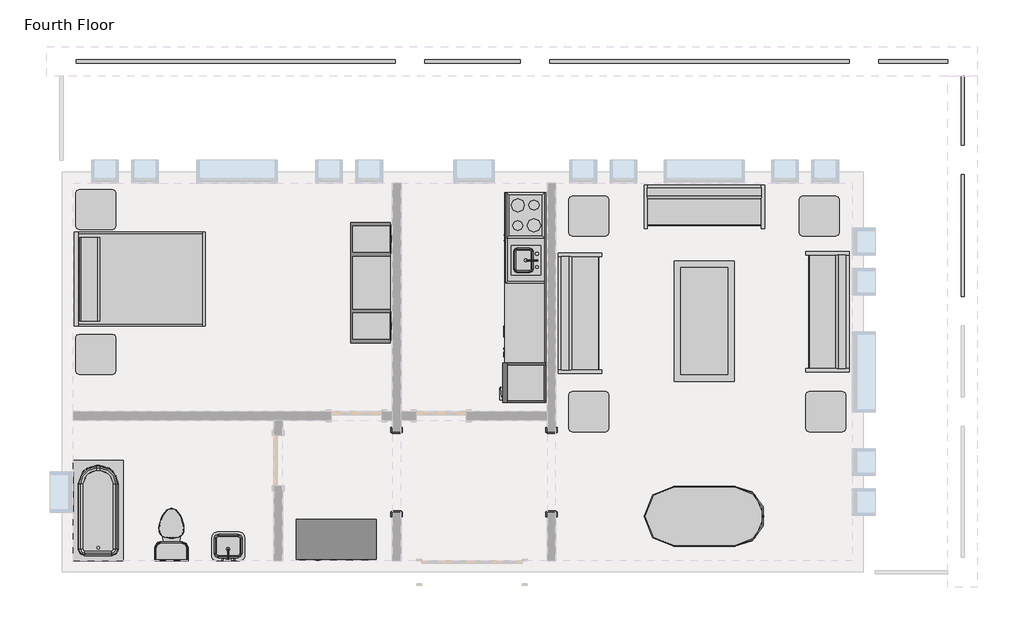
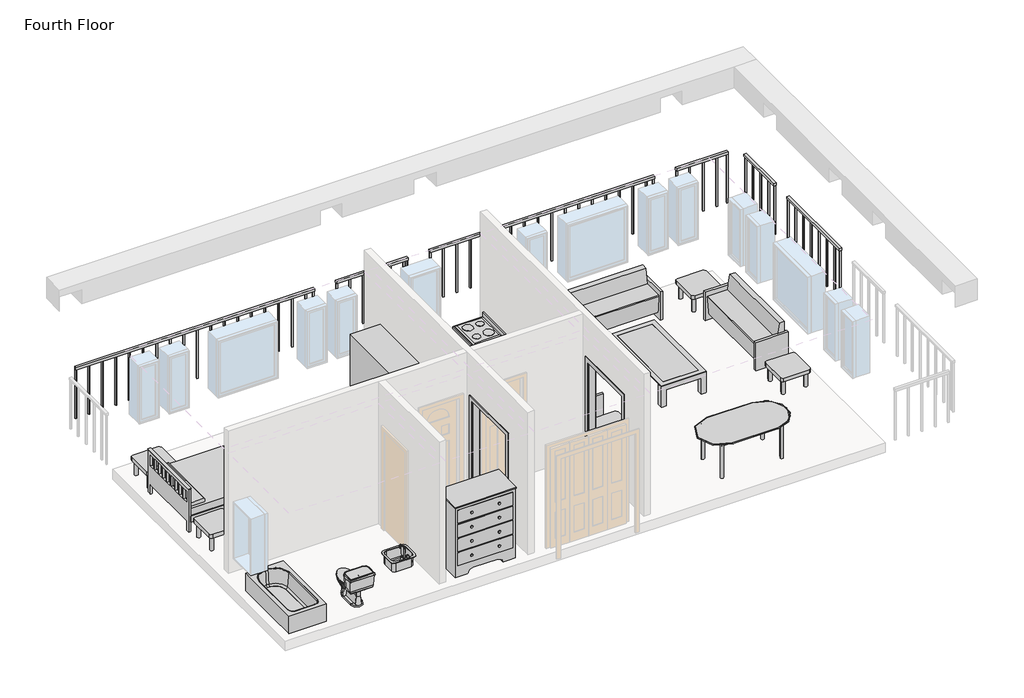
# One storey, part 2 of 2: 15 furniture elements, 6 proxies, 6 railings, 4 flow terminals.
"""IFC4 building model written with IfcOpenShell, lengths in millimetres."""

from ifc_helpers import new_model, si_unit, frame, origin, place, context, project, spatial, polyline, outline, extrude, transform, mapped, element, save
from components import m_cook_top_4_unit2_0615_x_500mm_249f3515, m_dishwasher_610_x_610_x_875mm_54ecfc4c, m_kitchenette_medium_1372mm_e05c6bec, m_passage_opening_cased_1220_x_2134mm_87a8d9c2, m_refrigerator_600_x_660mm_a466bf94, m_sink_kitchen_island_450_x_450mm_f969cf2d, m_sink_vanity_square_500_x_440mm_1e229b74, m_toilet_domestic_3d_m_toilet_domestic_3d_5cb52bd4, m_toilet_domestic_3d_m_toilet_domestic_3d_183bbd19, m_tub_rectangular_3d_m_tub_rectangular_3d_3a981ad5, m_bed_shaker_1422_x_1981mm_double_096e7f55, m_counter_top_w_sink_hole_600mm_depth_1fb56bb9, m_dresser_1220_x_1525_x_0610mm_18e1f140, m_entertainment_center_1830_x_1830_x_0610mm_f77a9b93, m_sofa_1830mm_58d08fc1, m_table_coffee_0915_x_1830_x_0457mm_134cd960, m_table_dining_oval_0915_x_1830mm_a7cfbe21, m_table_end_cb6ea12e

model = new_model("IFC4")

# Units and contexts
model_context = context("Model", 3, world=origin())
ifc_project = project(units=[si_unit("LENGTHUNIT", "METRE", prefix="MILLI")], contexts=[model_context])

# Site, building, storey
site = spatial("IfcSite", under=ifc_project)
building = spatial("IfcBuilding", under=site)
storey = spatial("IfcBuildingStorey", under=building, Name="Fourth Floor", Elevation=9144.0)

# Proxies
placement = place(None, origin())
m_cook_top_4_unit2_0615_x_500mm_shape = m_cook_top_4_unit2_0615_x_500mm_249f3515(model_context)
element("IfcBuildingElementProxy", 1, Name="M_Cook Top-4 Unit2 : 0615 x 500mm", ObjectType="M_Cook Top-4 Unit2 : 0615 x 500mm", at=placement, inside=storey, context=model_context, shape_type="MappedRepresentation", body=[
    mapped(m_cook_top_4_unit2_0615_x_500mm_shape, transform((-8054.9916203, 1914.054661, 9144.0), x_axis=(0.0, -1.0, 0.0), y_axis=(1.0, 0.0, 0.0), z_axis=(0.0, 0.0, 1.0))),
])
m_dishwasher_610_x_610_x_875mm_shape = m_dishwasher_610_x_610_x_875mm_54ecfc4c(model_context)
element("IfcBuildingElementProxy", 2, Name="M_Dishwasher : 610 x 610 x 875mm", ObjectType="M_Dishwasher : 610 x 610 x 875mm", at=placement, inside=storey, context=model_context, shape_type="MappedRepresentation", body=[
    mapped(m_dishwasher_610_x_610_x_875mm_shape, transform((-8321.6411851, 353.5721295, 9144.0), x_axis=(0.0, -1.0, 0.0), y_axis=(1.0, 0.0, 0.0), z_axis=(0.0, 0.0, 1.0))),
])
m_kitchenette_medium_1372mm_shape = m_kitchenette_medium_1372mm_e05c6bec(model_context)
element("IfcBuildingElementProxy", 3, Name="M_Kitchenette - Medium : 1372mm", ObjectType="M_Kitchenette - Medium : 1372mm", at=placement, inside=storey, context=model_context, shape_type="MappedRepresentation", body=[
    mapped(m_kitchenette_medium_1372mm_shape, transform((-7749.9916203, 1589.7923659, 9144.0), x_axis=(0.0, -1.0, 0.0), y_axis=(1.0, 0.0, 0.0), z_axis=(0.0, 0.0, 1.0))),
])
m_passage_opening_cased_1220_x_2134mm_shape = m_passage_opening_cased_1220_x_2134mm_87a8d9c2(model_context)
element("IfcBuildingElementProxy", 4, Name="M_Passage Opening-Cased : 1220 x 2134mm", ObjectType="M_Passage Opening-Cased : 1220 x 2134mm", at=placement, inside=storey, context=model_context, shape_type="MappedRepresentation", body=[
    mapped(m_passage_opening_cased_1220_x_2134mm_shape, transform((-7665.3416203, -1982.6925047, 9144.0), x_axis=(0.0, 1.0, 0.0), y_axis=(-1.0, 0.0, 0.0), z_axis=(0.0, 0.0, 1.0))),
])
element("IfcBuildingElementProxy", 5, Name="M_Passage Opening-Cased : 1220 x 2134mm", ObjectType="M_Passage Opening-Cased : 1220 x 2134mm", at=placement, inside=storey, context=model_context, shape_type="MappedRepresentation", body=[
    mapped(m_passage_opening_cased_1220_x_2134mm_shape, transform((-10019.0916203, -1999.0698181, 9144.0), x_axis=(0.0, -1.0, 0.0), y_axis=(1.0, 0.0, 0.0), z_axis=(0.0, 0.0, 1.0))),
])
m_refrigerator_600_x_660mm_shape = m_refrigerator_600_x_660mm_a466bf94(model_context)
element("IfcBuildingElementProxy", 6, Name="M_Refrigerator : 600 x 660mm", ObjectType="M_Refrigerator : 600 x 660mm", at=placement, inside=storey, context=model_context, shape_type="MappedRepresentation", body=[
    mapped(m_refrigerator_600_x_660mm_shape, transform((-8046.2067105, -687.7464817, 9144.0), x_axis=(0.0, -1.0, 0.0), y_axis=(1.0, 0.0, 0.0), z_axis=(0.0, 0.0, 1.0))),
])

# Flow terminals
m_sink_kitchen_island_450_x_450mm_shape = m_sink_kitchen_island_450_x_450mm_f969cf2d(model_context)
element("IfcFlowTerminal", 7, ObjectType="M_Sink Kitchen-Island : 450 x 450mm", at=placement, inside=storey, context=model_context, shape_type="MappedRepresentation", body=[
    mapped(m_sink_kitchen_island_450_x_450mm_shape, transform((-8057.3370214, 1243.7439015, 9144.0), x_axis=(0.0, -1.0, 0.0), y_axis=(1.0, 0.0, 0.0), z_axis=(0.0, 0.0, 1.0))),
])
m_sink_vanity_square_500_x_440mm_shape = m_sink_vanity_square_500_x_440mm_1e229b74(model_context)
element("IfcFlowTerminal", 8, ObjectType="M_Sink Vanity-Square : 500 x 440mm", at=placement, inside=storey, context=model_context, shape_type="MappedRepresentation", body=[
    mapped(m_sink_vanity_square_500_x_440mm_shape, transform((-12563.5523798, -3158.1107603, 9144.0), x_axis=(-1.0, 0.0, 0.0), y_axis=(0.0, -1.0, 0.0), z_axis=(0.0, 0.0, 1.0))),
])
m_toilet_domestic_3d_m_toilet_domestic_3d_shape = m_toilet_domestic_3d_m_toilet_domestic_3d_5cb52bd4(model_context)
m_toilet_domestic_3d_m_toilet_domestic_3d_2_shape = m_toilet_domestic_3d_m_toilet_domestic_3d_183bbd19(model_context)
element("IfcFlowTerminal", 9, ObjectType="M_Toilet-Domestic-3D : M_Toilet-Domestic-3D", at=placement, inside=storey, context=model_context, shape_type="MappedRepresentation", body=[
    mapped(m_toilet_domestic_3d_m_toilet_domestic_3d_shape, transform((-13440.7376477, -2845.185134, 9144.0), x_axis=(-1.0000000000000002, 0.0, 0.0), y_axis=(0.0, -1.0000000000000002, 0.0), z_axis=(0.0, 0.0, 1.0))),
    mapped(m_toilet_domestic_3d_m_toilet_domestic_3d_2_shape, transform((-13440.7376477, -2845.185134, 9144.0), x_axis=(-1.0000000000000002, 0.0, 0.0), y_axis=(0.0, -1.0000000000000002, 0.0), z_axis=(0.0, 0.0, 1.0))),
])
m_tub_rectangular_3d_m_tub_rectangular_3d_shape = m_tub_rectangular_3d_m_tub_rectangular_3d_3a981ad5(model_context)
element("IfcFlowTerminal", 10, ObjectType="M_Tub-Rectangular-3D : M_Tub-Rectangular-3D", at=placement, inside=storey, context=model_context, shape_type="MappedRepresentation", body=[
    mapped(m_tub_rectangular_3d_m_tub_rectangular_3d_shape, transform((-15110.3416203, -2229.2781927, 9144.0), x_axis=(0.0, 1.0, 0.0), y_axis=(-1.0, 0.0, 0.0), z_axis=(0.0, 0.0, 1.0))),
])

# Furniture
m_bed_shaker_1422_x_1981mm_double_shape = m_bed_shaker_1422_x_1981mm_double_096e7f55(model_context)
element("IfcFurniture", 11, ObjectType="M_Bed-Shaker : 1422 x 1981mm - Double", at=placement, inside=storey, context=model_context, shape_type="MappedRepresentation", body=[
    mapped(m_bed_shaker_1422_x_1981mm_double_shape, transform((-14905.3416203, 963.9688386, 9144.0), x_axis=(0.0, 1.0000000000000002, 0.0), y_axis=(-1.0000000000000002, 0.0, 0.0), z_axis=(0.0, 0.0, 1.0))),
])
m_counter_top_w_sink_hole_600mm_depth_shape = m_counter_top_w_sink_hole_600mm_depth_1fb56bb9(model_context)
element("IfcFurniture", 12, ObjectType="M_Counter Top w Sink Hole : 600mm Depth", at=placement, inside=storey, context=model_context, shape_type="MappedRepresentation", body=[
    mapped(m_counter_top_w_sink_hole_600mm_depth_shape, transform((-7749.9916203, 1056.5923659, 9144.0), x_axis=(0.0, -1.0, 0.0), y_axis=(1.0, 0.0, 0.0), z_axis=(0.0, 0.0, 1.0))),
])
m_dresser_1220_x_1525_x_0610mm_shape = m_dresser_1220_x_1525_x_0610mm_18e1f140(model_context)
element("IfcFurniture", 13, ObjectType="M_Dresser : 1220 x 1525 x 0610mm", at=placement, inside=storey, context=model_context, shape_type="MappedRepresentation", body=[
    mapped(m_dresser_1220_x_1525_x_0610mm_shape, transform((-10667.6483605, -2647.7182073, 9144.0), x_axis=(1.0, 0.0, 0.0), y_axis=(0.0, 1.0, 0.0), z_axis=(0.0, 0.0, 1.0))),
])
m_entertainment_center_1830_x_1830_x_0610mm_shape = m_entertainment_center_1830_x_1830_x_0610mm_f77a9b93(model_context)
element("IfcFurniture", 14, ObjectType="M_Entertainment center : 1830 x 1830 x 0610mm", at=placement, inside=storey, context=model_context, shape_type="MappedRepresentation", body=[
    mapped(m_entertainment_center_1830_x_1830_x_0610mm_shape, transform((-10818.2416203, 891.1188386, 9144.0), x_axis=(0.0, 1.0, 0.0), y_axis=(-1.0, 0.0, 0.0), z_axis=(0.0, 0.0, 1.0))),
])
m_sofa_1830mm_shape = m_sofa_1830mm_58d08fc1(model_context)
element("IfcFurniture", 15, ObjectType="M_Sofa : 1830mm", at=placement, inside=storey, context=model_context, shape_type="MappedRepresentation", body=[
    mapped(m_sofa_1830mm_shape, transform((-5413.7121121, 1899.9647403, 9144.0), x_axis=(1.0, 0.0, 0.0), y_axis=(0.0, 1.0, 0.0), z_axis=(0.0, 0.0, 1.0))),
])
element("IfcFurniture", 16, ObjectType="M_Sofa : 1830mm", at=placement, inside=storey, context=model_context, shape_type="MappedRepresentation", body=[
    mapped(m_sofa_1830mm_shape, transform((-3617.1736471, 517.2688343, 9144.0), x_axis=(0.0, -1.0, 0.0), y_axis=(1.0, 0.0, 0.0), z_axis=(0.0, 0.0, 1.0))),
])
element("IfcFurniture", 17, ObjectType="M_Sofa : 1830mm", at=placement, inside=storey, context=model_context, shape_type="MappedRepresentation", body=[
    mapped(m_sofa_1830mm_shape, transform((-7088.437522, 355.7483468, 9144.0), x_axis=(0.0, 1.0, 0.0), y_axis=(-1.0, 0.0, 0.0), z_axis=(0.0, 0.0, 1.0))),
])
m_table_coffee_0915_x_1830_x_0457mm_shape = m_table_coffee_0915_x_1830_x_0457mm_134cd960(model_context)
element("IfcFurniture", 18, ObjectType="M_Table-Coffee : 0915 x 1830 x 0457mm", at=placement, inside=storey, context=model_context, shape_type="MappedRepresentation", body=[
    mapped(m_table_coffee_0915_x_1830_x_0457mm_shape, transform((-5248.1305425, 287.8530719, 9144.0), x_axis=(0.0, 1.0, 0.0), y_axis=(-1.0, 0.0, 0.0), z_axis=(0.0, 0.0, 1.0))),
])
m_table_dining_oval_0915_x_1830mm_shape = m_table_dining_oval_0915_x_1830mm_a7cfbe21(model_context)
element("IfcFurniture", 19, ObjectType="M_Table-Dining Oval : 0915 x 1830mm", at=placement, inside=storey, context=model_context, shape_type="MappedRepresentation", body=[
    mapped(m_table_dining_oval_0915_x_1830mm_shape, transform((-4941.5219482, -2305.2828007, 9144.0), x_axis=(1.0, 0.0, 0.0), y_axis=(0.0, 1.0, 0.0), z_axis=(0.0, 0.0, 1.0))),
])
m_table_end_shape = m_table_end_cb6ea12e(model_context)
element("IfcFurniture", 20, ObjectType="M_Table-End : 0610 x 0160mm altered height", at=placement, inside=storey, context=model_context, shape_type="MappedRepresentation", body=[
    mapped(m_table_end_shape, transform((-7407.0752506, 1748.7188386, 9144.0), x_axis=(1.0, 0.0, 0.0), y_axis=(0.0, 1.0, 0.0), z_axis=(0.0, 0.0, 1.0))),
])
element("IfcFurniture", 21, ObjectType="M_Table-End : 0610 x 0160mm altered height", at=placement, inside=storey, context=model_context, shape_type="MappedRepresentation", body=[
    mapped(m_table_end_shape, transform((-3907.0752506, 1748.7188386, 9144.0), x_axis=(1.0, 0.0, 0.0), y_axis=(0.0, 1.0, 0.0), z_axis=(0.0, 0.0, 1.0))),
])
element("IfcFurniture", 22, ObjectType="M_Table-End : 0610 x 0160mm altered height", at=placement, inside=storey, context=model_context, shape_type="MappedRepresentation", body=[
    mapped(m_table_end_shape, transform((-3807.0752506, -1222.7811614, 9144.0), x_axis=(1.0, 0.0, 0.0), y_axis=(0.0, 1.0, 0.0), z_axis=(0.0, 0.0, 1.0))),
])
element("IfcFurniture", 23, ObjectType="M_Table-End : 0610 x 0160mm altered height", at=placement, inside=storey, context=model_context, shape_type="MappedRepresentation", body=[
    mapped(m_table_end_shape, transform((-7407.0752506, -1222.7811614, 9144.0), x_axis=(1.0, 0.0, 0.0), y_axis=(0.0, 1.0, 0.0), z_axis=(0.0, 0.0, 1.0))),
])
element("IfcFurniture", 24, ObjectType="M_Table-End : 0610 x 0160mm altered height", at=placement, inside=storey, context=model_context, shape_type="MappedRepresentation", body=[
    mapped(m_table_end_shape, transform((-14899.0752506, -351.2811614, 9144.0), x_axis=(1.0, 0.0, 0.0), y_axis=(0.0, 1.0, 0.0), z_axis=(0.0, 0.0, 1.0))),
])
element("IfcFurniture", 25, ObjectType="M_Table-End : 0610 x 0160mm altered height", at=placement, inside=storey, context=model_context, shape_type="MappedRepresentation", body=[
    mapped(m_table_end_shape, transform((-14899.0752506, 1848.7188386, 9144.0), x_axis=(1.0, 0.0, 0.0), y_axis=(0.0, 1.0, 0.0), z_axis=(0.0, 0.0, 1.0))),
])

# Railings
element("IfcRailing", 26, ObjectType="1100mm", at=placement, inside=storey, context=model_context, shape_type="SweptSolid", body=[
    extrude(outline(polyline([(-14885.3416203, 4231.1188386), (-14885.3416203, 4281.1188386), (-10043.3416203, 4281.1188386), (-10043.3416203, 4231.1188386), (-14885.3416203, 4231.1188386)])), frame((0.0, 0.0, 10194.0), z_axis=(0.0, 0.0, 1.0), x_axis=(1.0, 0.0, 0.0)), (0.0, 0.0, 1.0), 50.0),
    extrude(outline(polyline([(-10222.8416203, 4243.6188386), (-10222.8416203, 4268.6188386), (-10197.8416203, 4268.6188386), (-10197.8416203, 4243.6188386), (-10222.8416203, 4243.6188386)])), frame((0.0, 0.0, 9144.0), z_axis=(0.0, 0.0, 1.0), x_axis=(1.0, 0.0, 0.0)), (0.0, 0.0, 1.0), 1050.0),
    extrude(outline(polyline([(-10497.8416203, 4243.6188386), (-10497.8416203, 4268.6188386), (-10472.8416203, 4268.6188386), (-10472.8416203, 4243.6188386), (-10497.8416203, 4243.6188386)])), frame((0.0, 0.0, 9144.0), z_axis=(0.0, 0.0, 1.0), x_axis=(1.0, 0.0, 0.0)), (0.0, 0.0, 1.0), 1050.0),
    extrude(outline(polyline([(-10772.8416203, 4243.6188386), (-10772.8416203, 4268.6188386), (-10747.8416203, 4268.6188386), (-10747.8416203, 4243.6188386), (-10772.8416203, 4243.6188386)])), frame((0.0, 0.0, 9144.0), z_axis=(0.0, 0.0, 1.0), x_axis=(1.0, 0.0, 0.0)), (0.0, 0.0, 1.0), 1050.0),
    extrude(outline(polyline([(-11047.8416203, 4243.6188386), (-11047.8416203, 4268.6188386), (-11022.8416203, 4268.6188386), (-11022.8416203, 4243.6188386), (-11047.8416203, 4243.6188386)])), frame((0.0, 0.0, 9144.0), z_axis=(0.0, 0.0, 1.0), x_axis=(1.0, 0.0, 0.0)), (0.0, 0.0, 1.0), 1050.0),
    extrude(outline(polyline([(-11322.8416203, 4243.6188386), (-11322.8416203, 4268.6188386), (-11297.8416203, 4268.6188386), (-11297.8416203, 4243.6188386), (-11322.8416203, 4243.6188386)])), frame((0.0, 0.0, 9144.0), z_axis=(0.0, 0.0, 1.0), x_axis=(1.0, 0.0, 0.0)), (0.0, 0.0, 1.0), 1050.0),
    extrude(outline(polyline([(-11597.8416203, 4243.6188386), (-11597.8416203, 4268.6188386), (-11572.8416203, 4268.6188386), (-11572.8416203, 4243.6188386), (-11597.8416203, 4243.6188386)])), frame((0.0, 0.0, 9144.0), z_axis=(0.0, 0.0, 1.0), x_axis=(1.0, 0.0, 0.0)), (0.0, 0.0, 1.0), 1050.0),
    extrude(outline(polyline([(-11872.8416203, 4243.6188386), (-11872.8416203, 4268.6188386), (-11847.8416203, 4268.6188386), (-11847.8416203, 4243.6188386), (-11872.8416203, 4243.6188386)])), frame((0.0, 0.0, 9144.0), z_axis=(0.0, 0.0, 1.0), x_axis=(1.0, 0.0, 0.0)), (0.0, 0.0, 1.0), 1050.0),
    extrude(outline(polyline([(-12147.8416203, 4243.6188386), (-12147.8416203, 4268.6188386), (-12122.8416203, 4268.6188386), (-12122.8416203, 4243.6188386), (-12147.8416203, 4243.6188386)])), frame((0.0, 0.0, 9144.0), z_axis=(0.0, 0.0, 1.0), x_axis=(1.0, 0.0, 0.0)), (0.0, 0.0, 1.0), 1050.0),
    extrude(outline(polyline([(-12422.8416203, 4243.6188386), (-12422.8416203, 4268.6188386), (-12397.8416203, 4268.6188386), (-12397.8416203, 4243.6188386), (-12422.8416203, 4243.6188386)])), frame((0.0, 0.0, 9144.0), z_axis=(0.0, 0.0, 1.0), x_axis=(1.0, 0.0, 0.0)), (0.0, 0.0, 1.0), 1050.0),
    extrude(outline(polyline([(-12697.8416203, 4243.6188386), (-12697.8416203, 4268.6188386), (-12672.8416203, 4268.6188386), (-12672.8416203, 4243.6188386), (-12697.8416203, 4243.6188386)])), frame((0.0, 0.0, 9144.0), z_axis=(0.0, 0.0, 1.0), x_axis=(1.0, 0.0, 0.0)), (0.0, 0.0, 1.0), 1050.0),
    extrude(outline(polyline([(-12972.8416203, 4243.6188386), (-12972.8416203, 4268.6188386), (-12947.8416203, 4268.6188386), (-12947.8416203, 4243.6188386), (-12972.8416203, 4243.6188386)])), frame((0.0, 0.0, 9144.0), z_axis=(0.0, 0.0, 1.0), x_axis=(1.0, 0.0, 0.0)), (0.0, 0.0, 1.0), 1050.0),
    extrude(outline(polyline([(-13247.8416203, 4243.6188386), (-13247.8416203, 4268.6188386), (-13222.8416203, 4268.6188386), (-13222.8416203, 4243.6188386), (-13247.8416203, 4243.6188386)])), frame((0.0, 0.0, 9144.0), z_axis=(0.0, 0.0, 1.0), x_axis=(1.0, 0.0, 0.0)), (0.0, 0.0, 1.0), 1050.0),
    extrude(outline(polyline([(-13522.8416203, 4243.6188386), (-13522.8416203, 4268.6188386), (-13497.8416203, 4268.6188386), (-13497.8416203, 4243.6188386), (-13522.8416203, 4243.6188386)])), frame((0.0, 0.0, 9144.0), z_axis=(0.0, 0.0, 1.0), x_axis=(1.0, 0.0, 0.0)), (0.0, 0.0, 1.0), 1050.0),
    extrude(outline(polyline([(-13797.8416203, 4243.6188386), (-13797.8416203, 4268.6188386), (-13772.8416203, 4268.6188386), (-13772.8416203, 4243.6188386), (-13797.8416203, 4243.6188386)])), frame((0.0, 0.0, 9144.0), z_axis=(0.0, 0.0, 1.0), x_axis=(1.0, 0.0, 0.0)), (0.0, 0.0, 1.0), 1050.0),
    extrude(outline(polyline([(-14072.8416203, 4243.6188386), (-14072.8416203, 4268.6188386), (-14047.8416203, 4268.6188386), (-14047.8416203, 4243.6188386), (-14072.8416203, 4243.6188386)])), frame((0.0, 0.0, 9144.0), z_axis=(0.0, 0.0, 1.0), x_axis=(1.0, 0.0, 0.0)), (0.0, 0.0, 1.0), 1050.0),
    extrude(outline(polyline([(-14347.8416203, 4243.6188386), (-14347.8416203, 4268.6188386), (-14322.8416203, 4268.6188386), (-14322.8416203, 4243.6188386), (-14347.8416203, 4243.6188386)])), frame((0.0, 0.0, 9144.0), z_axis=(0.0, 0.0, 1.0), x_axis=(1.0, 0.0, 0.0)), (0.0, 0.0, 1.0), 1050.0),
    extrude(outline(polyline([(-14622.8416203, 4243.6188386), (-14622.8416203, 4268.6188386), (-14597.8416203, 4268.6188386), (-14597.8416203, 4243.6188386), (-14622.8416203, 4243.6188386)])), frame((0.0, 0.0, 9144.0), z_axis=(0.0, 0.0, 1.0), x_axis=(1.0, 0.0, 0.0)), (0.0, 0.0, 1.0), 1050.0),
    extrude(outline(polyline([(-10068.3416203, 4243.6188386), (-10068.3416203, 4268.6188386), (-10043.3416203, 4268.6188386), (-10043.3416203, 4243.6188386), (-10068.3416203, 4243.6188386)])), frame((0.0, 0.0, 9144.0), z_axis=(0.0, 0.0, 1.0), x_axis=(1.0, 0.0, 0.0)), (0.0, 0.0, 1.0), 1050.0),
    extrude(outline(polyline([(-14885.3416203, 4243.6188386), (-14885.3416203, 4268.6188386), (-14860.3416203, 4268.6188386), (-14860.3416203, 4243.6188386), (-14885.3416203, 4243.6188386)])), frame((0.0, 0.0, 9144.0), z_axis=(0.0, 0.0, 1.0), x_axis=(1.0, 0.0, 0.0)), (0.0, 0.0, 1.0), 1050.0),
])
element("IfcRailing", 27, ObjectType="1100mm", at=placement, inside=storey, context=model_context, shape_type="SweptSolid", body=[
    extrude(outline(polyline([(-9593.3416203, 4231.1188386), (-9593.3416203, 4281.1188386), (-8143.3416203, 4281.1188386), (-8143.3416203, 4231.1188386), (-9593.3416203, 4231.1188386)])), frame((0.0, 0.0, 10194.0), z_axis=(0.0, 0.0, 1.0), x_axis=(1.0, 0.0, 0.0)), (0.0, 0.0, 1.0), 50.0),
    extrude(outline(polyline([(-8230.8416203, 4243.6188386), (-8230.8416203, 4268.6188386), (-8205.8416203, 4268.6188386), (-8205.8416203, 4243.6188386), (-8230.8416203, 4243.6188386)])), frame((0.0, 0.0, 9144.0), z_axis=(0.0, 0.0, 1.0), x_axis=(1.0, 0.0, 0.0)), (0.0, 0.0, 1.0), 1050.0),
    extrude(outline(polyline([(-8505.8416203, 4243.6188386), (-8505.8416203, 4268.6188386), (-8480.8416203, 4268.6188386), (-8480.8416203, 4243.6188386), (-8505.8416203, 4243.6188386)])), frame((0.0, 0.0, 9144.0), z_axis=(0.0, 0.0, 1.0), x_axis=(1.0, 0.0, 0.0)), (0.0, 0.0, 1.0), 1050.0),
    extrude(outline(polyline([(-8780.8416203, 4243.6188386), (-8780.8416203, 4268.6188386), (-8755.8416203, 4268.6188386), (-8755.8416203, 4243.6188386), (-8780.8416203, 4243.6188386)])), frame((0.0, 0.0, 9144.0), z_axis=(0.0, 0.0, 1.0), x_axis=(1.0, 0.0, 0.0)), (0.0, 0.0, 1.0), 1050.0),
    extrude(outline(polyline([(-9055.8416203, 4243.6188386), (-9055.8416203, 4268.6188386), (-9030.8416203, 4268.6188386), (-9030.8416203, 4243.6188386), (-9055.8416203, 4243.6188386)])), frame((0.0, 0.0, 9144.0), z_axis=(0.0, 0.0, 1.0), x_axis=(1.0, 0.0, 0.0)), (0.0, 0.0, 1.0), 1050.0),
    extrude(outline(polyline([(-9330.8416203, 4243.6188386), (-9330.8416203, 4268.6188386), (-9305.8416203, 4268.6188386), (-9305.8416203, 4243.6188386), (-9330.8416203, 4243.6188386)])), frame((0.0, 0.0, 9144.0), z_axis=(0.0, 0.0, 1.0), x_axis=(1.0, 0.0, 0.0)), (0.0, 0.0, 1.0), 1050.0),
    extrude(outline(polyline([(-8168.3416203, 4243.6188386), (-8168.3416203, 4268.6188386), (-8143.3416203, 4268.6188386), (-8143.3416203, 4243.6188386), (-8168.3416203, 4243.6188386)])), frame((0.0, 0.0, 9144.0), z_axis=(0.0, 0.0, 1.0), x_axis=(1.0, 0.0, 0.0)), (0.0, 0.0, 1.0), 1050.0),
    extrude(outline(polyline([(-9593.3416203, 4243.6188386), (-9593.3416203, 4268.6188386), (-9568.3416203, 4268.6188386), (-9568.3416203, 4243.6188386), (-9593.3416203, 4243.6188386)])), frame((0.0, 0.0, 9144.0), z_axis=(0.0, 0.0, 1.0), x_axis=(1.0, 0.0, 0.0)), (0.0, 0.0, 1.0), 1050.0),
])
element("IfcRailing", 28, ObjectType="1100mm", at=placement, inside=storey, context=model_context, shape_type="SweptSolid", body=[
    extrude(outline(polyline([(-7693.3416203, 4231.1188386), (-7693.3416203, 4281.1188386), (-3143.3416203, 4281.1188386), (-3143.3416203, 4231.1188386), (-7693.3416203, 4231.1188386)])), frame((0.0, 0.0, 10194.0), z_axis=(0.0, 0.0, 1.0), x_axis=(1.0, 0.0, 0.0)), (0.0, 0.0, 1.0), 50.0),
    extrude(outline(polyline([(-3305.8416203, 4243.6188386), (-3305.8416203, 4268.6188386), (-3280.8416203, 4268.6188386), (-3280.8416203, 4243.6188386), (-3305.8416203, 4243.6188386)])), frame((0.0, 0.0, 9144.0), z_axis=(0.0, 0.0, 1.0), x_axis=(1.0, 0.0, 0.0)), (0.0, 0.0, 1.0), 1050.0),
    extrude(outline(polyline([(-3580.8416203, 4243.6188386), (-3580.8416203, 4268.6188386), (-3555.8416203, 4268.6188386), (-3555.8416203, 4243.6188386), (-3580.8416203, 4243.6188386)])), frame((0.0, 0.0, 9144.0), z_axis=(0.0, 0.0, 1.0), x_axis=(1.0, 0.0, 0.0)), (0.0, 0.0, 1.0), 1050.0),
    extrude(outline(polyline([(-3855.8416203, 4243.6188386), (-3855.8416203, 4268.6188386), (-3830.8416203, 4268.6188386), (-3830.8416203, 4243.6188386), (-3855.8416203, 4243.6188386)])), frame((0.0, 0.0, 9144.0), z_axis=(0.0, 0.0, 1.0), x_axis=(1.0, 0.0, 0.0)), (0.0, 0.0, 1.0), 1050.0),
    extrude(outline(polyline([(-4130.8416203, 4243.6188386), (-4130.8416203, 4268.6188386), (-4105.8416203, 4268.6188386), (-4105.8416203, 4243.6188386), (-4130.8416203, 4243.6188386)])), frame((0.0, 0.0, 9144.0), z_axis=(0.0, 0.0, 1.0), x_axis=(1.0, 0.0, 0.0)), (0.0, 0.0, 1.0), 1050.0),
    extrude(outline(polyline([(-4405.8416203, 4243.6188386), (-4405.8416203, 4268.6188386), (-4380.8416203, 4268.6188386), (-4380.8416203, 4243.6188386), (-4405.8416203, 4243.6188386)])), frame((0.0, 0.0, 9144.0), z_axis=(0.0, 0.0, 1.0), x_axis=(1.0, 0.0, 0.0)), (0.0, 0.0, 1.0), 1050.0),
    extrude(outline(polyline([(-4680.8416203, 4243.6188386), (-4680.8416203, 4268.6188386), (-4655.8416203, 4268.6188386), (-4655.8416203, 4243.6188386), (-4680.8416203, 4243.6188386)])), frame((0.0, 0.0, 9144.0), z_axis=(0.0, 0.0, 1.0), x_axis=(1.0, 0.0, 0.0)), (0.0, 0.0, 1.0), 1050.0),
    extrude(outline(polyline([(-4955.8416203, 4243.6188386), (-4955.8416203, 4268.6188386), (-4930.8416203, 4268.6188386), (-4930.8416203, 4243.6188386), (-4955.8416203, 4243.6188386)])), frame((0.0, 0.0, 9144.0), z_axis=(0.0, 0.0, 1.0), x_axis=(1.0, 0.0, 0.0)), (0.0, 0.0, 1.0), 1050.0),
    extrude(outline(polyline([(-5230.8416203, 4243.6188386), (-5230.8416203, 4268.6188386), (-5205.8416203, 4268.6188386), (-5205.8416203, 4243.6188386), (-5230.8416203, 4243.6188386)])), frame((0.0, 0.0, 9144.0), z_axis=(0.0, 0.0, 1.0), x_axis=(1.0, 0.0, 0.0)), (0.0, 0.0, 1.0), 1050.0),
    extrude(outline(polyline([(-5505.8416203, 4243.6188386), (-5505.8416203, 4268.6188386), (-5480.8416203, 4268.6188386), (-5480.8416203, 4243.6188386), (-5505.8416203, 4243.6188386)])), frame((0.0, 0.0, 9144.0), z_axis=(0.0, 0.0, 1.0), x_axis=(1.0, 0.0, 0.0)), (0.0, 0.0, 1.0), 1050.0),
    extrude(outline(polyline([(-5780.8416203, 4243.6188386), (-5780.8416203, 4268.6188386), (-5755.8416203, 4268.6188386), (-5755.8416203, 4243.6188386), (-5780.8416203, 4243.6188386)])), frame((0.0, 0.0, 9144.0), z_axis=(0.0, 0.0, 1.0), x_axis=(1.0, 0.0, 0.0)), (0.0, 0.0, 1.0), 1050.0),
    extrude(outline(polyline([(-6055.8416203, 4243.6188386), (-6055.8416203, 4268.6188386), (-6030.8416203, 4268.6188386), (-6030.8416203, 4243.6188386), (-6055.8416203, 4243.6188386)])), frame((0.0, 0.0, 9144.0), z_axis=(0.0, 0.0, 1.0), x_axis=(1.0, 0.0, 0.0)), (0.0, 0.0, 1.0), 1050.0),
    extrude(outline(polyline([(-6330.8416203, 4243.6188386), (-6330.8416203, 4268.6188386), (-6305.8416203, 4268.6188386), (-6305.8416203, 4243.6188386), (-6330.8416203, 4243.6188386)])), frame((0.0, 0.0, 9144.0), z_axis=(0.0, 0.0, 1.0), x_axis=(1.0, 0.0, 0.0)), (0.0, 0.0, 1.0), 1050.0),
    extrude(outline(polyline([(-6605.8416203, 4243.6188386), (-6605.8416203, 4268.6188386), (-6580.8416203, 4268.6188386), (-6580.8416203, 4243.6188386), (-6605.8416203, 4243.6188386)])), frame((0.0, 0.0, 9144.0), z_axis=(0.0, 0.0, 1.0), x_axis=(1.0, 0.0, 0.0)), (0.0, 0.0, 1.0), 1050.0),
    extrude(outline(polyline([(-6880.8416203, 4243.6188386), (-6880.8416203, 4268.6188386), (-6855.8416203, 4268.6188386), (-6855.8416203, 4243.6188386), (-6880.8416203, 4243.6188386)])), frame((0.0, 0.0, 9144.0), z_axis=(0.0, 0.0, 1.0), x_axis=(1.0, 0.0, 0.0)), (0.0, 0.0, 1.0), 1050.0),
    extrude(outline(polyline([(-7155.8416203, 4243.6188386), (-7155.8416203, 4268.6188386), (-7130.8416203, 4268.6188386), (-7130.8416203, 4243.6188386), (-7155.8416203, 4243.6188386)])), frame((0.0, 0.0, 9144.0), z_axis=(0.0, 0.0, 1.0), x_axis=(1.0, 0.0, 0.0)), (0.0, 0.0, 1.0), 1050.0),
    extrude(outline(polyline([(-7430.8416203, 4243.6188386), (-7430.8416203, 4268.6188386), (-7405.8416203, 4268.6188386), (-7405.8416203, 4243.6188386), (-7430.8416203, 4243.6188386)])), frame((0.0, 0.0, 9144.0), z_axis=(0.0, 0.0, 1.0), x_axis=(1.0, 0.0, 0.0)), (0.0, 0.0, 1.0), 1050.0),
    extrude(outline(polyline([(-3168.3416203, 4243.6188386), (-3168.3416203, 4268.6188386), (-3143.3416203, 4268.6188386), (-3143.3416203, 4243.6188386), (-3168.3416203, 4243.6188386)])), frame((0.0, 0.0, 9144.0), z_axis=(0.0, 0.0, 1.0), x_axis=(1.0, 0.0, 0.0)), (0.0, 0.0, 1.0), 1050.0),
    extrude(outline(polyline([(-7693.3416203, 4243.6188386), (-7693.3416203, 4268.6188386), (-7668.3416203, 4268.6188386), (-7668.3416203, 4243.6188386), (-7693.3416203, 4243.6188386)])), frame((0.0, 0.0, 9144.0), z_axis=(0.0, 0.0, 1.0), x_axis=(1.0, 0.0, 0.0)), (0.0, 0.0, 1.0), 1050.0),
])
element("IfcRailing", 29, ObjectType="1100mm", at=placement, inside=storey, context=model_context, shape_type="SweptSolid", body=[
    extrude(outline(polyline([(-2693.3416203, 4231.1188386), (-2693.3416203, 4281.1188386), (-1643.3416203, 4281.1188386), (-1643.3416203, 4231.1188386), (-2693.3416203, 4231.1188386)])), frame((0.0, 0.0, 10194.0), z_axis=(0.0, 0.0, 1.0), x_axis=(1.0, 0.0, 0.0)), (0.0, 0.0, 1.0), 50.0),
    extrude(outline(polyline([(-1880.8416203, 4243.6188386), (-1880.8416203, 4268.6188386), (-1855.8416203, 4268.6188386), (-1855.8416203, 4243.6188386), (-1880.8416203, 4243.6188386)])), frame((0.0, 0.0, 9144.0), z_axis=(0.0, 0.0, 1.0), x_axis=(1.0, 0.0, 0.0)), (0.0, 0.0, 1.0), 1050.0),
    extrude(outline(polyline([(-2155.8416203, 4243.6188386), (-2155.8416203, 4268.6188386), (-2130.8416203, 4268.6188386), (-2130.8416203, 4243.6188386), (-2155.8416203, 4243.6188386)])), frame((0.0, 0.0, 9144.0), z_axis=(0.0, 0.0, 1.0), x_axis=(1.0, 0.0, 0.0)), (0.0, 0.0, 1.0), 1050.0),
    extrude(outline(polyline([(-2430.8416203, 4243.6188386), (-2430.8416203, 4268.6188386), (-2405.8416203, 4268.6188386), (-2405.8416203, 4243.6188386), (-2430.8416203, 4243.6188386)])), frame((0.0, 0.0, 9144.0), z_axis=(0.0, 0.0, 1.0), x_axis=(1.0, 0.0, 0.0)), (0.0, 0.0, 1.0), 1050.0),
    extrude(outline(polyline([(-1668.3416203, 4243.6188386), (-1668.3416203, 4268.6188386), (-1643.3416203, 4268.6188386), (-1643.3416203, 4243.6188386), (-1668.3416203, 4243.6188386)])), frame((0.0, 0.0, 9144.0), z_axis=(0.0, 0.0, 1.0), x_axis=(1.0, 0.0, 0.0)), (0.0, 0.0, 1.0), 1050.0),
    extrude(outline(polyline([(-2693.3416203, 4243.6188386), (-2693.3416203, 4268.6188386), (-2668.3416203, 4268.6188386), (-2668.3416203, 4243.6188386), (-2693.3416203, 4243.6188386)])), frame((0.0, 0.0, 9144.0), z_axis=(0.0, 0.0, 1.0), x_axis=(1.0, 0.0, 0.0)), (0.0, 0.0, 1.0), 1050.0),
])
element("IfcRailing", 30, ObjectType="1100mm", at=placement, inside=storey, context=model_context, shape_type="SweptSolid", body=[
    extrude(outline(polyline([(-1443.3416203, 4031.1188386), (-1393.3416203, 4031.1188386), (-1393.3416203, 2981.1188386), (-1443.3416203, 2981.1188386), (-1443.3416203, 4031.1188386)])), frame((0.0, 0.0, 10194.0), z_axis=(0.0, 0.0, 1.0), x_axis=(1.0, 0.0, 0.0)), (0.0, 0.0, 1.0), 50.0),
    extrude(outline(polyline([(-1430.8416203, 3218.6188386), (-1405.8416203, 3218.6188386), (-1405.8416203, 3193.6188386), (-1430.8416203, 3193.6188386), (-1430.8416203, 3218.6188386)])), frame((0.0, 0.0, 9144.0), z_axis=(0.0, 0.0, 1.0), x_axis=(1.0, 0.0, 0.0)), (0.0, 0.0, 1.0), 1050.0),
    extrude(outline(polyline([(-1430.8416203, 3493.6188386), (-1405.8416203, 3493.6188386), (-1405.8416203, 3468.6188386), (-1430.8416203, 3468.6188386), (-1430.8416203, 3493.6188386)])), frame((0.0, 0.0, 9144.0), z_axis=(0.0, 0.0, 1.0), x_axis=(1.0, 0.0, 0.0)), (0.0, 0.0, 1.0), 1050.0),
    extrude(outline(polyline([(-1430.8416203, 3768.6188386), (-1405.8416203, 3768.6188386), (-1405.8416203, 3743.6188386), (-1430.8416203, 3743.6188386), (-1430.8416203, 3768.6188386)])), frame((0.0, 0.0, 9144.0), z_axis=(0.0, 0.0, 1.0), x_axis=(1.0, 0.0, 0.0)), (0.0, 0.0, 1.0), 1050.0),
    extrude(outline(polyline([(-1430.8416203, 3006.1188386), (-1405.8416203, 3006.1188386), (-1405.8416203, 2981.1188386), (-1430.8416203, 2981.1188386), (-1430.8416203, 3006.1188386)])), frame((0.0, 0.0, 9144.0), z_axis=(0.0, 0.0, 1.0), x_axis=(1.0, 0.0, 0.0)), (0.0, 0.0, 1.0), 1050.0),
    extrude(outline(polyline([(-1430.8416203, 4031.1188386), (-1405.8416203, 4031.1188386), (-1405.8416203, 4006.1188386), (-1430.8416203, 4006.1188386), (-1430.8416203, 4031.1188386)])), frame((0.0, 0.0, 9144.0), z_axis=(0.0, 0.0, 1.0), x_axis=(1.0, 0.0, 0.0)), (0.0, 0.0, 1.0), 1050.0),
])
element("IfcRailing", 31, ObjectType="1100mm", at=placement, inside=storey, context=model_context, shape_type="SweptSolid", body=[
    extrude(outline(polyline([(-1443.3416203, 2531.1188386), (-1393.3416203, 2531.1188386), (-1393.3416203, 681.1188386), (-1443.3416203, 681.1188386), (-1443.3416203, 2531.1188386)])), frame((0.0, 0.0, 10194.0), z_axis=(0.0, 0.0, 1.0), x_axis=(1.0, 0.0, 0.0)), (0.0, 0.0, 1.0), 50.0),
    extrude(outline(polyline([(-1430.8416203, 893.6188386), (-1405.8416203, 893.6188386), (-1405.8416203, 868.6188386), (-1430.8416203, 868.6188386), (-1430.8416203, 893.6188386)])), frame((0.0, 0.0, 9144.0), z_axis=(0.0, 0.0, 1.0), x_axis=(1.0, 0.0, 0.0)), (0.0, 0.0, 1.0), 1050.0),
    extrude(outline(polyline([(-1430.8416203, 1168.6188386), (-1405.8416203, 1168.6188386), (-1405.8416203, 1143.6188386), (-1430.8416203, 1143.6188386), (-1430.8416203, 1168.6188386)])), frame((0.0, 0.0, 9144.0), z_axis=(0.0, 0.0, 1.0), x_axis=(1.0, 0.0, 0.0)), (0.0, 0.0, 1.0), 1050.0),
    extrude(outline(polyline([(-1430.8416203, 1443.6188386), (-1405.8416203, 1443.6188386), (-1405.8416203, 1418.6188386), (-1430.8416203, 1418.6188386), (-1430.8416203, 1443.6188386)])), frame((0.0, 0.0, 9144.0), z_axis=(0.0, 0.0, 1.0), x_axis=(1.0, 0.0, 0.0)), (0.0, 0.0, 1.0), 1050.0),
    extrude(outline(polyline([(-1430.8416203, 1718.6188386), (-1405.8416203, 1718.6188386), (-1405.8416203, 1693.6188386), (-1430.8416203, 1693.6188386), (-1430.8416203, 1718.6188386)])), frame((0.0, 0.0, 9144.0), z_axis=(0.0, 0.0, 1.0), x_axis=(1.0, 0.0, 0.0)), (0.0, 0.0, 1.0), 1050.0),
    extrude(outline(polyline([(-1430.8416203, 1993.6188386), (-1405.8416203, 1993.6188386), (-1405.8416203, 1968.6188386), (-1430.8416203, 1968.6188386), (-1430.8416203, 1993.6188386)])), frame((0.0, 0.0, 9144.0), z_axis=(0.0, 0.0, 1.0), x_axis=(1.0, 0.0, 0.0)), (0.0, 0.0, 1.0), 1050.0),
    extrude(outline(polyline([(-1430.8416203, 2268.6188386), (-1405.8416203, 2268.6188386), (-1405.8416203, 2243.6188386), (-1430.8416203, 2243.6188386), (-1430.8416203, 2268.6188386)])), frame((0.0, 0.0, 9144.0), z_axis=(0.0, 0.0, 1.0), x_axis=(1.0, 0.0, 0.0)), (0.0, 0.0, 1.0), 1050.0),
    extrude(outline(polyline([(-1430.8416203, 706.1188386), (-1405.8416203, 706.1188386), (-1405.8416203, 681.1188386), (-1430.8416203, 681.1188386), (-1430.8416203, 706.1188386)])), frame((0.0, 0.0, 9144.0), z_axis=(0.0, 0.0, 1.0), x_axis=(1.0, 0.0, 0.0)), (0.0, 0.0, 1.0), 1050.0),
    extrude(outline(polyline([(-1430.8416203, 2531.1188386), (-1405.8416203, 2531.1188386), (-1405.8416203, 2506.1188386), (-1430.8416203, 2506.1188386), (-1430.8416203, 2531.1188386)])), frame((0.0, 0.0, 9144.0), z_axis=(0.0, 0.0, 1.0), x_axis=(1.0, 0.0, 0.0)), (0.0, 0.0, 1.0), 1050.0),
])

save(model, "model.ifc")
